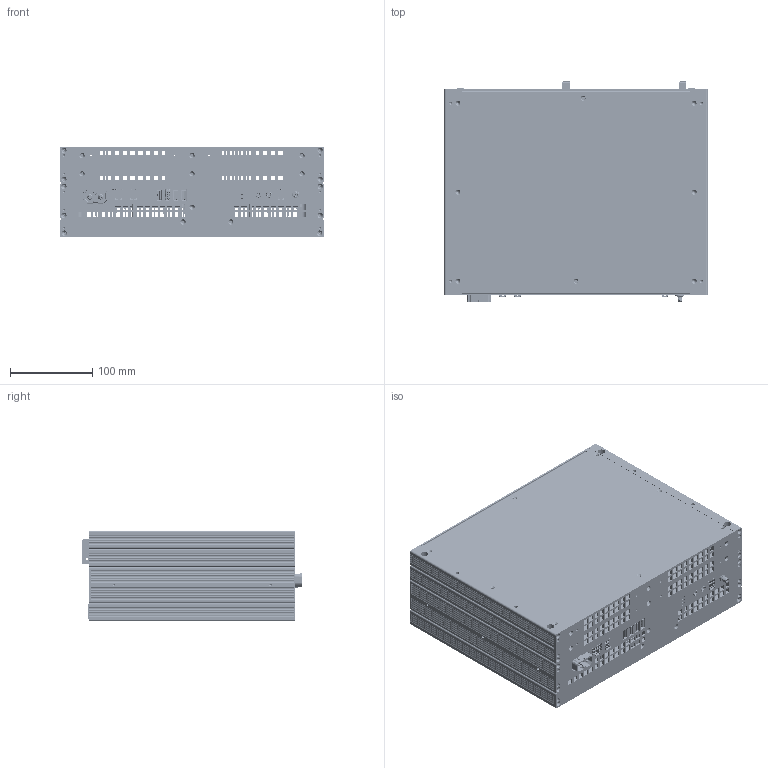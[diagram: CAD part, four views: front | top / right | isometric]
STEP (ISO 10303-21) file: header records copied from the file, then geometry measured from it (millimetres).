
FILE_DESCRIPTION(/* description */ (''),/* implementation_level */ '2;1');
FILE_NAME(/* name */ 'D:\Programm_Data\Autodesk\components\VP7570 vereinfacht kundenmodel\VP7570_02.stp',/* time_stamp */ '2024-04-17T11:28:41+02:00',/* author */ ('viskhp'),/* organization */ (''),/* preprocessor_version */ 'ST-DEVELOPER v18.1',/* originating_system */ 'Autodesk Inventor 2022',/* authorisation */ '');
FILE_SCHEMA (('AUTOMOTIVE_DESIGN { 1 0 10303 214 3 1 1 }'));
Products named in the file (1): VP7570
Bounding box: 320 x 268.27 x 110.15 mm (x, y, z)
Volume: 2125828.3 mm3; surface area: 1492167.8 mm2
Topology: 2 solids, 79 shells, 27461 faces, 75664 edges, 48779 vertices
Faces by surface type: plane 17551, cylinder 7167, bspline 1613, torus 475, cone 473, sphere 182
Full cylindrical faces by diameter (mm): 0.46 x180, 0.64 x90, 0.69 x90, 0.9 x4, 0.92 x1, 1 x116, 1.05 x66, 1.2 x2, 1.25 x2, 1.27 x3, 1.3 x1, 1.4 x8, 1.55 x6, 1.95 x12, 1.956 x2, 2 x12, 2.05 x17, 2.2 x18, 2.261 x4, 2.32 x4, 2.5 x139, 2.9 x4, 3 x10, 3.2 x4, 3.3 x34, 3.4 x45, 3.6 x12, 3.72 x2, 3.734 x2, 3.8 x1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
Entity records: 966522 total; most frequent: CARTESIAN_POINT 235919, ORIENTED_EDGE 150590, DIRECTION 139353, EDGE_CURVE 75403, LINE 55991, VECTOR 55991, VERTEX_POINT 48779, AXIS2_PLACEMENT_3D 41681
